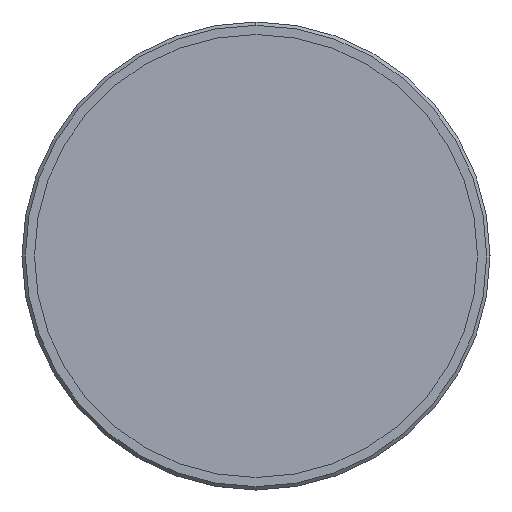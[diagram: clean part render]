
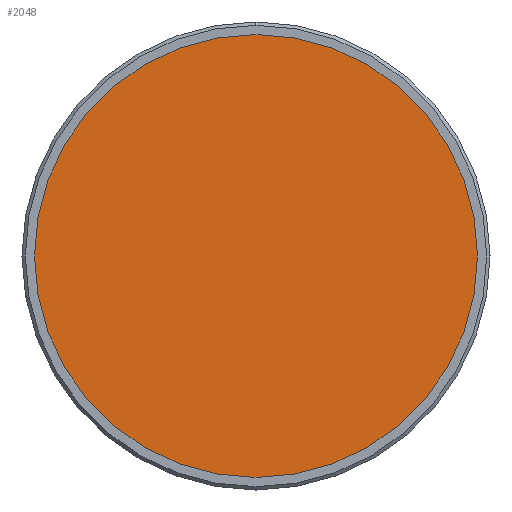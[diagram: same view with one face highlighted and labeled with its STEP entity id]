
A CAD part, left-side view. The second image highlights one B-rep face of the part: STEP entity #2048.
In plain terms, the highlighted planar face has unit normal (-1, 0, 0).
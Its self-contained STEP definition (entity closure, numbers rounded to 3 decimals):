
#180 = DIRECTION ( 'NONE',  ( 1., 0., 0. ) ) ;
#226 = CIRCLE ( 'NONE', #543, 33.125 ) ;
#293 = DIRECTION ( 'NONE',  ( 0., 0., -1. ) ) ;
#377 = ORIENTED_EDGE ( 'NONE', *, *, #441, .F. ) ;
#441 = EDGE_CURVE ( 'NONE', #1563, #1056, #683, .T. ) ;
#474 = CARTESIAN_POINT ( 'NONE',  ( -111.526, 0., 0. ) ) ;
#543 = AXIS2_PLACEMENT_3D ( 'NONE', #1370, #180, #1194 ) ;
#591 = PLANE ( 'NONE',  #1327 ) ;
#682 = CARTESIAN_POINT ( 'NONE',  ( -111.526, 0., 33.125 ) ) ;
#683 = CIRCLE ( 'NONE', #1832, 33.125 ) ;
#920 = ORIENTED_EDGE ( 'NONE', *, *, #953, .F. ) ;
#933 = DIRECTION ( 'NONE',  ( 0., 0., 1. ) ) ;
#953 = EDGE_CURVE ( 'NONE', #1056, #1563, #226, .T. ) ;
#1056 = VERTEX_POINT ( 'NONE', #682 ) ;
#1194 = DIRECTION ( 'NONE',  ( 0., 0., -1. ) ) ;
#1327 = AXIS2_PLACEMENT_3D ( 'NONE', #1780, #1954, #933 ) ;
#1335 = FACE_OUTER_BOUND ( 'NONE', #1619, .T. ) ;
#1370 = CARTESIAN_POINT ( 'NONE',  ( -111.526, 0., 0. ) ) ;
#1489 = DIRECTION ( 'NONE',  ( 1., 0., 0. ) ) ;
#1563 = VERTEX_POINT ( 'NONE', #1569 ) ;
#1569 = CARTESIAN_POINT ( 'NONE',  ( -111.526, 0., -33.125 ) ) ;
#1619 = EDGE_LOOP ( 'NONE', ( #377, #920 ) ) ;
#1780 = CARTESIAN_POINT ( 'NONE',  ( -111.526, 33.125, 0. ) ) ;
#1832 = AXIS2_PLACEMENT_3D ( 'NONE', #474, #1489, #293 ) ;
#1954 = DIRECTION ( 'NONE',  ( -1., 0., 0. ) ) ;
#2048 = ADVANCED_FACE ( 'NONE', ( #1335 ), #591, .T. ) ;
